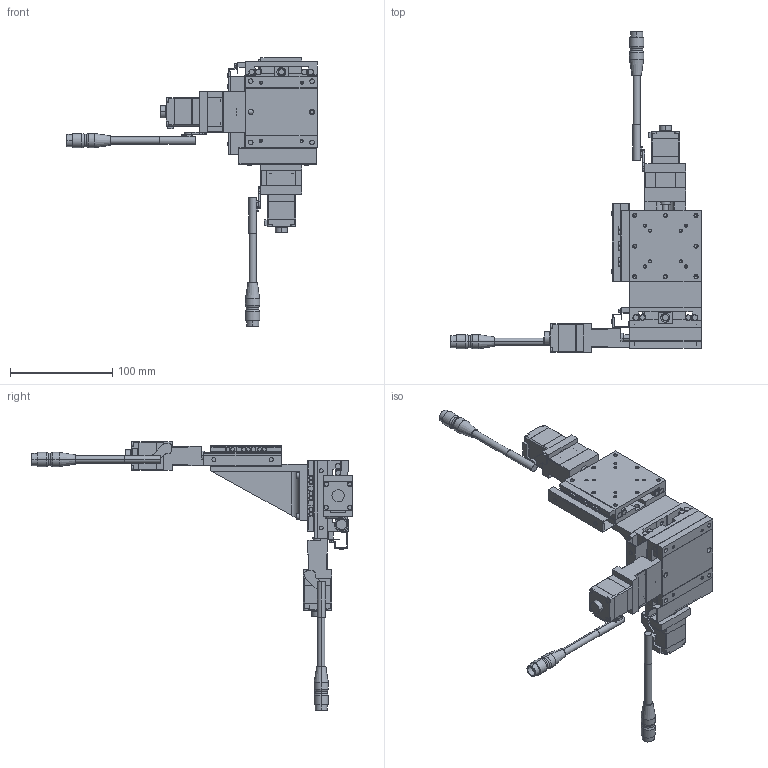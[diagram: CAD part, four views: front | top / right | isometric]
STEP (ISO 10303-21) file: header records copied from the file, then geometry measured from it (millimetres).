
FILE_DESCRIPTION(('STEP AP203'),'1');
FILE_NAME('C:/3D-Trans/3D_PMZG715T-L□-T+240129.step','2024-03-14T07:45:26',(' '),(' '),'Spatial InterOp 3D',' ',' ');
FILE_SCHEMA(('CONFIG_CONTROL_DESIGN'));
Length unit declared in the file: millimetre
Products named in the file (19): 1; 2; 3; 4; 5; 6; 7; 8; 9; 10; 11; 12; 13; 14; 15; 16; 17; 18; 19
Bounding box: 245 x 314 x 263 mm (x, y, z)
Volume: 504059 mm3; surface area: 207883.2 mm2
Topology: 19 solids, 19 shells, 1829 faces, 4609 edges, 2898 vertices
Faces by surface type: plane 998, cylinder 577, cone 254
Entity records: 55249 total; most frequent: DIRECTION 9731, CARTESIAN_POINT 9313, ORIENTED_EDGE 9098, EDGE_CURVE 4549, AXIS2_PLACEMENT_3D 3340, LINE 3051, VECTOR 3051, VERTEX_POINT 2898
